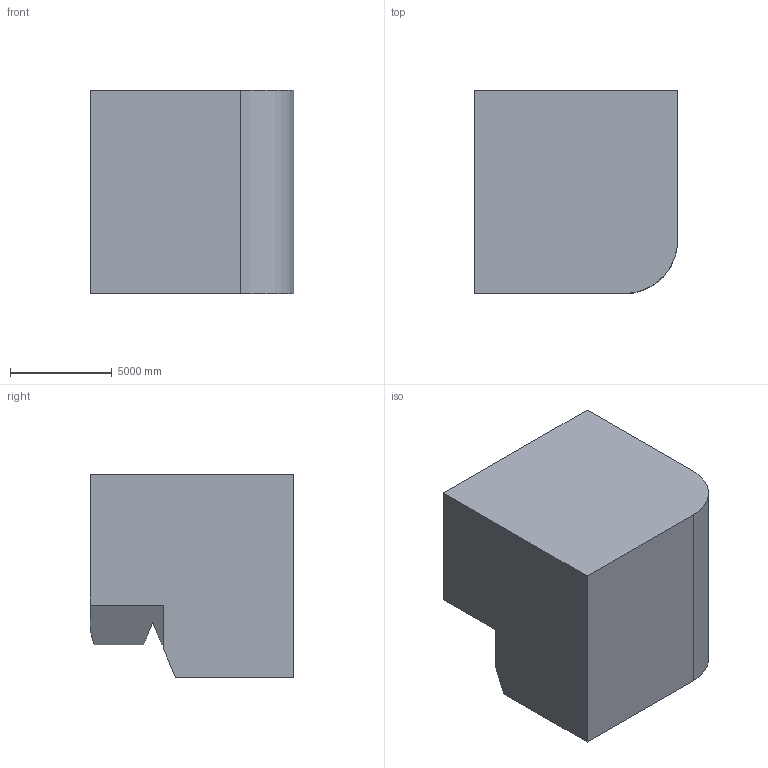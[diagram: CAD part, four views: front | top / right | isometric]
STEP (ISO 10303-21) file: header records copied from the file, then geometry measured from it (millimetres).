
FILE_DESCRIPTION (( 'STEP AP203' ), '1' );
FILE_NAME ('406.STEP', '2022-07-29T11:09:16', ( 'user' ), ( '' ), 'SwSTEP 2.0', 'SolidWorks 2021', '' );
FILE_SCHEMA (( 'CONFIG_CONTROL_DESIGN' ));
Length unit declared in the file: centimetre
Products named in the file (1): 406
Bounding box: 10000 x 10000 x 10000 mm (x, y, z)
Volume: 874564141541.3 mm3; surface area: 569009297.6 mm2
Topology: 1 solids, 1 shells, 17 faces, 45 edges, 30 vertices
Faces by surface type: plane 13, cylinder 4
Entity records: 603 total; most frequent: CARTESIAN_POINT 96, ORIENTED_EDGE 90, DIRECTION 87, EDGE_CURVE 45, VECTOR 37, LINE 37, VERTEX_POINT 30, AXIS2_PLACEMENT_3D 25
